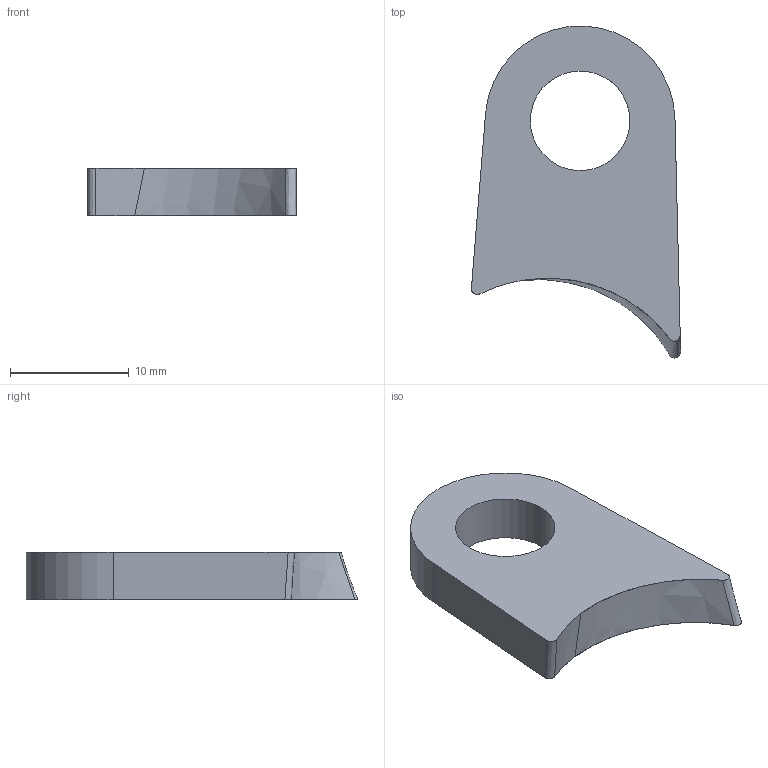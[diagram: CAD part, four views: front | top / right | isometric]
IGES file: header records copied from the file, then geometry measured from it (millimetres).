
Start section: START RECORD GO HERE.
Global section: file name: 20M_SU_05003L (chape susp abant L).igs; native system: IBM CATIA IGES - CATIA Version 5 Release 19 ; preprocessor: CATIA Version 5 Release 19 ; author: Martin Kawczynski; organization: DESKTOP-UDLM1FC; date: 20191224.155651; units: millimetre
Bounding box: 17.64 x 27.99 x 4 mm (x, y, z)
Surface area: 1006.8 mm2 (no closed solid volume)
Topology: 0 solids, 0 shells, 11 faces, 56 edges, 58 vertices
Faces by surface type: revolution 5, plane 4, bspline 2
